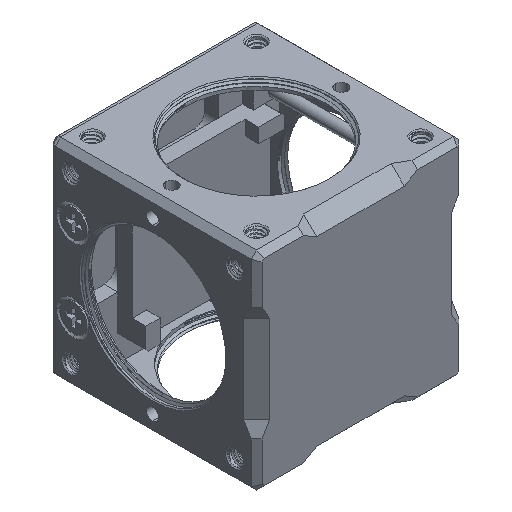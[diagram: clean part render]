
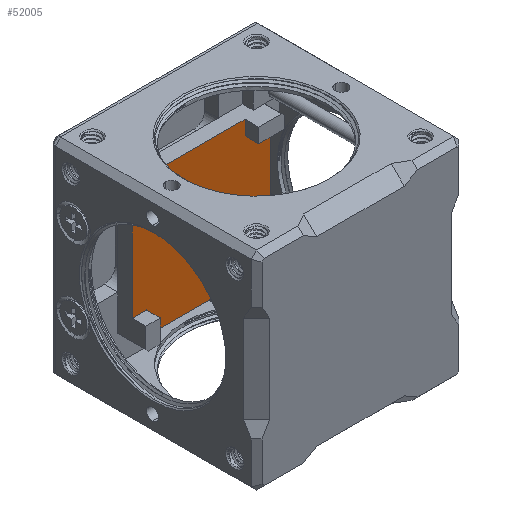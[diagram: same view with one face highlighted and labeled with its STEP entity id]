
A CAD part, isometric view. The second image highlights one B-rep face of the part: STEP entity #52005.
In plain terms, the highlighted planar face has unit normal (0, -1, 0) as drawn and (0, 1, 0) by its records, which use the part's own axes.
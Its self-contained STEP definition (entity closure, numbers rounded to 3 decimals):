
#762 = DIRECTION ( 'NONE',  ( -1., 0., 0. ) ) ;
#773 = LINE ( 'NONE', #37509, #60743 ) ;
#1657 = EDGE_CURVE ( 'NONE', #6528, #20963, #22368, .T. ) ;
#2167 = LINE ( 'NONE', #16511, #46995 ) ;
#3691 = VECTOR ( 'NONE', #10545, 1000. ) ;
#4245 = VECTOR ( 'NONE', #29292, 1000. ) ;
#4705 = LINE ( 'NONE', #38036, #7186 ) ;
#4876 = LINE ( 'NONE', #28269, #39531 ) ;
#4947 = EDGE_CURVE ( 'NONE', #51245, #6528, #59326, .T. ) ;
#6528 = VERTEX_POINT ( 'NONE', #57237 ) ;
#7186 = VECTOR ( 'NONE', #28707, 1000. ) ;
#10545 = DIRECTION ( 'NONE',  ( 0., 0., 1. ) ) ;
#10697 = ORIENTED_EDGE ( 'NONE', *, *, #25041, .F. ) ;
#11203 = DIRECTION ( 'NONE',  ( -1., 0., 0. ) ) ;
#12582 = CARTESIAN_POINT ( 'NONE',  ( -10.05, 2.642, -12.685 ) ) ;
#14330 = ORIENTED_EDGE ( 'NONE', *, *, #21255, .T. ) ;
#14427 = CARTESIAN_POINT ( 'NONE',  ( 12.685, 2.642, -10.05 ) ) ;
#14507 = VERTEX_POINT ( 'NONE', #32683 ) ;
#14771 = LINE ( 'NONE', #33779, #59541 ) ;
#15399 = LINE ( 'NONE', #57743, #48591 ) ;
#15605 = EDGE_LOOP ( 'NONE', ( #10697, #52893, #25840, #32262, #47809, #25256, #21855, #47991, #14330, #15883, #40662 ) ) ;
#15883 = ORIENTED_EDGE ( 'NONE', *, *, #22436, .F. ) ;
#16511 = CARTESIAN_POINT ( 'NONE',  ( 12.685, 2.642, -10.05 ) ) ;
#16630 = DIRECTION ( 'NONE',  ( 0., 1., 0. ) ) ;
#16854 = DIRECTION ( 'NONE',  ( 0., 0., -1. ) ) ;
#17667 = VERTEX_POINT ( 'NONE', #20593 ) ;
#19631 = LINE ( 'NONE', #57615, #4245 ) ;
#20077 = FACE_OUTER_BOUND ( 'NONE', #15605, .T. ) ;
#20523 = LINE ( 'NONE', #53219, #3691 ) ;
#20593 = CARTESIAN_POINT ( 'NONE',  ( 7.95, 2.642, -10.05 ) ) ;
#20634 = VERTEX_POINT ( 'NONE', #25183 ) ;
#20773 = CARTESIAN_POINT ( 'NONE',  ( 12.685, 2.642, 12.185 ) ) ;
#20963 = VERTEX_POINT ( 'NONE', #44012 ) ;
#21255 = EDGE_CURVE ( 'NONE', #20634, #45498, #4705, .T. ) ;
#21855 = ORIENTED_EDGE ( 'NONE', *, *, #26381, .F. ) ;
#22362 = EDGE_CURVE ( 'NONE', #14507, #20634, #15399, .T. ) ;
#22368 = LINE ( 'NONE', #60347, #26165 ) ;
#22436 = EDGE_CURVE ( 'NONE', #38080, #45498, #14771, .T. ) ;
#23498 = DIRECTION ( 'NONE',  ( 1., 0., 0. ) ) ;
#25041 = EDGE_CURVE ( 'NONE', #43356, #39763, #20523, .T. ) ;
#25183 = CARTESIAN_POINT ( 'NONE',  ( -10.05, 2.642, 8.5 ) ) ;
#25256 = ORIENTED_EDGE ( 'NONE', *, *, #1657, .T. ) ;
#25840 = ORIENTED_EDGE ( 'NONE', *, *, #40176, .T. ) ;
#25998 = EDGE_CURVE ( 'NONE', #38080, #39763, #4876, .T. ) ;
#26165 = VECTOR ( 'NONE', #36669, 1000. ) ;
#26381 = EDGE_CURVE ( 'NONE', #14507, #20963, #53918, .T. ) ;
#27650 = DIRECTION ( 'NONE',  ( 0.707, 0., -0.707 ) ) ;
#28269 = CARTESIAN_POINT ( 'NONE',  ( 12.185, 2.642, 12.685 ) ) ;
#28707 = DIRECTION ( 'NONE',  ( 0., 0., 1. ) ) ;
#28998 = VERTEX_POINT ( 'NONE', #42489 ) ;
#29088 = EDGE_CURVE ( 'NONE', #51245, #28998, #773, .T. ) ;
#29120 = CARTESIAN_POINT ( 'NONE',  ( -10.05, 2.642, 12.685 ) ) ;
#29292 = DIRECTION ( 'NONE',  ( 0., 0., -1. ) ) ;
#32262 = ORIENTED_EDGE ( 'NONE', *, *, #29088, .F. ) ;
#32683 = CARTESIAN_POINT ( 'NONE',  ( -12.685, 2.642, 8.5 ) ) ;
#33779 = CARTESIAN_POINT ( 'NONE',  ( 12.185, 2.642, 12.685 ) ) ;
#34082 = AXIS2_PLACEMENT_3D ( 'NONE', #35007, #16630, #39974 ) ;
#35007 = CARTESIAN_POINT ( 'NONE',  ( 10.262, 2.642, -10.262 ) ) ;
#36669 = DIRECTION ( 'NONE',  ( -1., 0., 0. ) ) ;
#37509 = CARTESIAN_POINT ( 'NONE',  ( -10.05, 2.642, -12.685 ) ) ;
#37819 = DIRECTION ( 'NONE',  ( 1., 0., 0. ) ) ;
#38036 = CARTESIAN_POINT ( 'NONE',  ( -10.05, 2.642, 8.5 ) ) ;
#38080 = VERTEX_POINT ( 'NONE', #53415 ) ;
#39051 = PLANE ( 'NONE',  #34082 ) ;
#39531 = VECTOR ( 'NONE', #27650, 1000. ) ;
#39601 = CARTESIAN_POINT ( 'NONE',  ( -12.685, 2.642, 8.5 ) ) ;
#39763 = VERTEX_POINT ( 'NONE', #20773 ) ;
#39974 = DIRECTION ( 'NONE',  ( 1., 0., 0. ) ) ;
#40176 = EDGE_CURVE ( 'NONE', #17667, #28998, #19631, .T. ) ;
#40317 = DIRECTION ( 'NONE',  ( 0., 0., 1. ) ) ;
#40662 = ORIENTED_EDGE ( 'NONE', *, *, #25998, .T. ) ;
#40898 = VECTOR ( 'NONE', #40317, 1000. ) ;
#41016 = EDGE_CURVE ( 'NONE', #43356, #17667, #2167, .T. ) ;
#42489 = CARTESIAN_POINT ( 'NONE',  ( 7.95, 2.642, -12.685 ) ) ;
#43356 = VERTEX_POINT ( 'NONE', #14427 ) ;
#44012 = CARTESIAN_POINT ( 'NONE',  ( -12.685, 2.642, -8.5 ) ) ;
#44511 = VECTOR ( 'NONE', #16854, 1000. ) ;
#45498 = VERTEX_POINT ( 'NONE', #29120 ) ;
#46995 = VECTOR ( 'NONE', #11203, 1000. ) ;
#47360 = CARTESIAN_POINT ( 'NONE',  ( -10.05, 2.642, -12.685 ) ) ;
#47809 = ORIENTED_EDGE ( 'NONE', *, *, #4947, .T. ) ;
#47991 = ORIENTED_EDGE ( 'NONE', *, *, #22362, .T. ) ;
#48591 = VECTOR ( 'NONE', #23498, 1000. ) ;
#51245 = VERTEX_POINT ( 'NONE', #47360 ) ;
#52005 = ADVANCED_FACE ( 'NONE', ( #20077 ), #39051, .T. ) ;
#52893 = ORIENTED_EDGE ( 'NONE', *, *, #41016, .T. ) ;
#53219 = CARTESIAN_POINT ( 'NONE',  ( 12.685, 2.642, -10.05 ) ) ;
#53415 = CARTESIAN_POINT ( 'NONE',  ( 12.185, 2.642, 12.685 ) ) ;
#53918 = LINE ( 'NONE', #39601, #44511 ) ;
#57237 = CARTESIAN_POINT ( 'NONE',  ( -10.05, 2.642, -8.5 ) ) ;
#57615 = CARTESIAN_POINT ( 'NONE',  ( 7.95, 2.642, -10.05 ) ) ;
#57743 = CARTESIAN_POINT ( 'NONE',  ( -12.685, 2.642, 8.5 ) ) ;
#59326 = LINE ( 'NONE', #12582, #40898 ) ;
#59541 = VECTOR ( 'NONE', #762, 1000. ) ;
#60347 = CARTESIAN_POINT ( 'NONE',  ( -10.05, 2.642, -8.5 ) ) ;
#60743 = VECTOR ( 'NONE', #37819, 1000. ) ;
